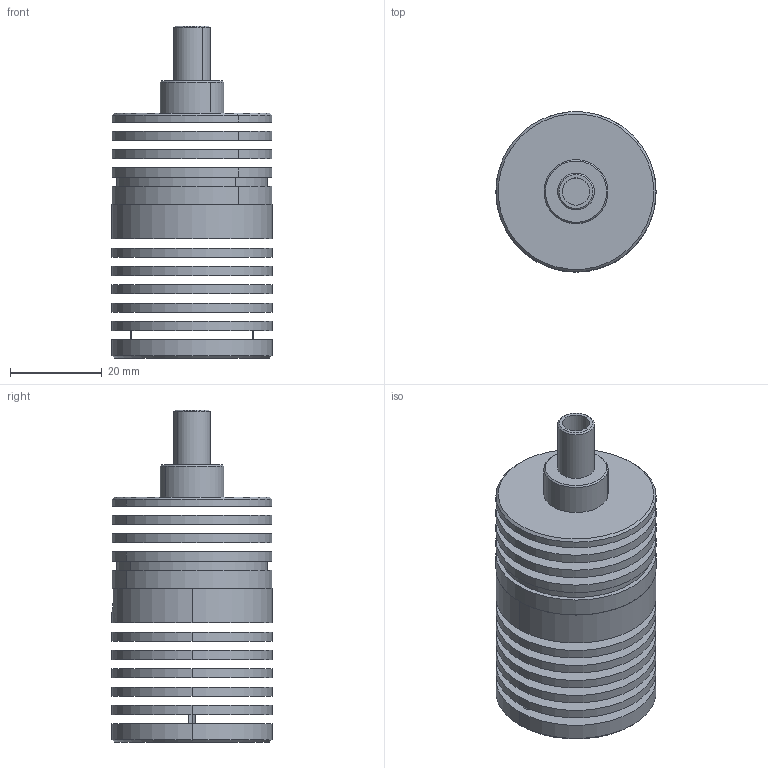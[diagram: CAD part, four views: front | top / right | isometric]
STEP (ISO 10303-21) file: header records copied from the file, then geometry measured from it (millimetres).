
FILE_DESCRIPTION (( 'STEP AP203' ), '1' );
FILE_NAME ('CST-SPL08-72.5-潠眢3D芞.STEP', '2020-07-31T08:04:51', ( 'China' ), ( 'Home' ), 'SwSTEP 2.0', 'SolidWorks 2014', '' );
FILE_SCHEMA (( 'CONFIG_CONTROL_DESIGN' ));
Length unit declared in the file: millimetre
Products named in the file (1): CST-SPL08-72.5-潠眢3D芞
Bounding box: 35 x 35 x 72.5 mm (x, y, z)
Surface area: 15877.3 mm2 (no closed solid volume)
Topology: 0 solids, 10 shells, 83 faces, 227 edges, 160 vertices
Faces by surface type: cylinder 40, plane 30, cone 12, bspline 1
Entity records: 3186 total; most frequent: CARTESIAN_POINT 918, DIRECTION 516, ORIENTED_EDGE 374, EDGE_CURVE 223, AXIS2_PLACEMENT_3D 218, VERTEX_POINT 160, CIRCLE 135, EDGE_LOOP 109
